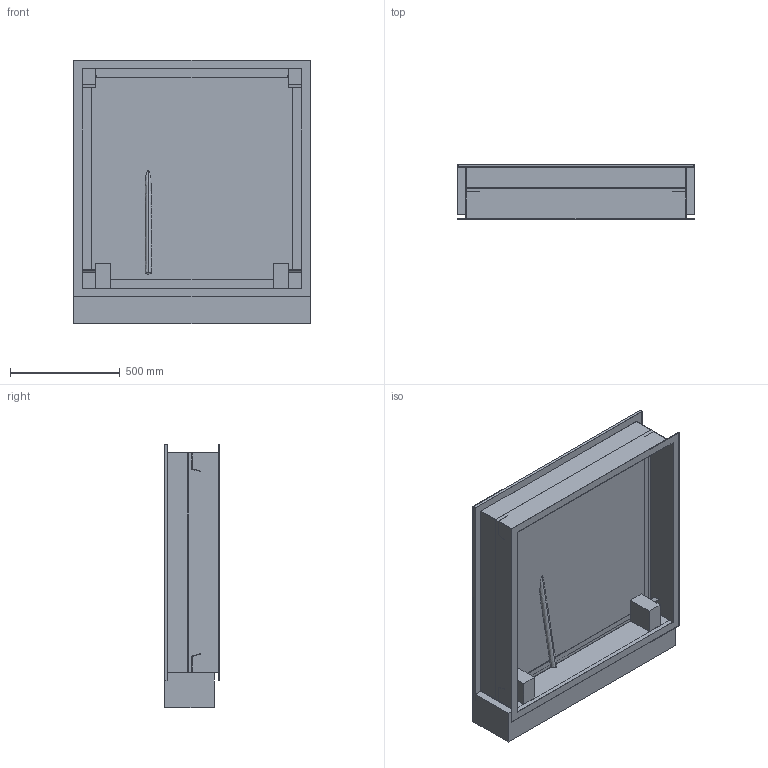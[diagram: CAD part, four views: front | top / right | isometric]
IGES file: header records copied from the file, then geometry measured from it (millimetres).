
Start section:  PTC IGES file: 51585407.igs
Global section: file name: 51585407.igs; native system: Creo Parametric by PTC Inc.; preprocessor: 2019224; author: hrl; organization: Unknown; date: 20210226.113841; units: millimetre
Bounding box: 1078 x 250 x 1200 mm (x, y, z)
Surface area: 5916955.5 mm2 (no closed solid volume)
Topology: 0 solids, 0 shells, 142 faces, 784 edges, 784 vertices
Faces by surface type: bspline 110, revolution 32
